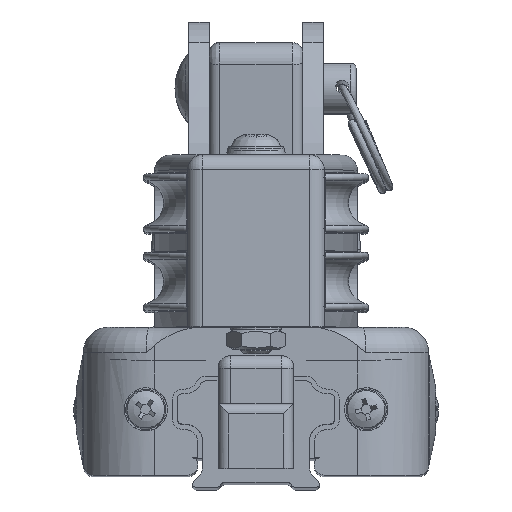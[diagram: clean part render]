
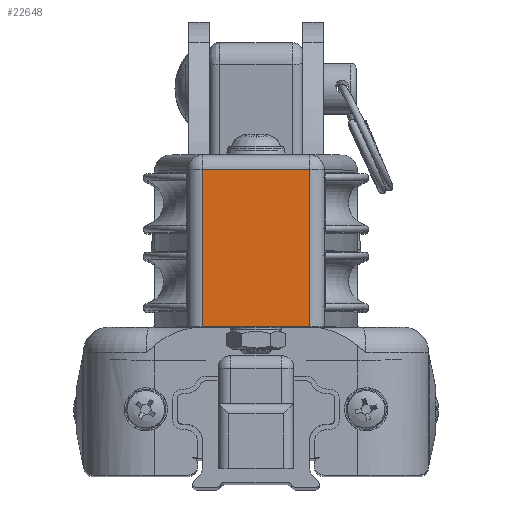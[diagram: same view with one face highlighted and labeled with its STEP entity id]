
A CAD part, top view. The second image highlights one B-rep face of the part: STEP entity #22648.
In plain terms, the highlighted planar face has unit normal (0, 0, 1).
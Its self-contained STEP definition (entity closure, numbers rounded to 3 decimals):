
#819=PLANE('',#24747);
#1842=LINE('',#35908,#3256);
#2471=LINE('',#44028,#3885);
#2472=LINE('',#44032,#3886);
#2473=LINE('',#44033,#3887);
#3256=VECTOR('',#26911,10.);
#3885=VECTOR('',#29712,10.);
#3886=VECTOR('',#29719,10.);
#3887=VECTOR('',#29720,10.);
#5060=FACE_OUTER_BOUND('',#6373,.T.);
#6373=EDGE_LOOP('',(#18178,#18179,#18180,#18181));
#9514=VERTEX_POINT('',#35905);
#9515=VERTEX_POINT('',#35907);
#10572=VERTEX_POINT('',#44026);
#10573=VERTEX_POINT('',#44027);
#11914=EDGE_CURVE('',#9514,#9515,#1842,.T.);
#13476=EDGE_CURVE('',#10572,#10573,#2471,.T.);
#13479=EDGE_CURVE('',#10573,#9515,#2472,.T.);
#13480=EDGE_CURVE('',#10572,#9514,#2473,.T.);
#18178=ORIENTED_EDGE('',*,*,#13479,.T.);
#18179=ORIENTED_EDGE('',*,*,#11914,.F.);
#18180=ORIENTED_EDGE('',*,*,#13480,.F.);
#18181=ORIENTED_EDGE('',*,*,#13476,.T.);
#22648=ADVANCED_FACE('',(#5060),#819,.T.);
#24747=AXIS2_PLACEMENT_3D('',#44031,#29717,#29718);
#26911=DIRECTION('',(0.,-1.,0.));
#29712=DIRECTION('',(0.,-1.,0.));
#29717=DIRECTION('center_axis',(0.,0.,
1.));
#29718=DIRECTION('ref_axis',(0.,1.,0.));
#29719=DIRECTION('',(1.,0.,0.));
#29720=DIRECTION('',(1.,0.,0.));
#35905=CARTESIAN_POINT('',(10.6,62.7,133.));
#35907=CARTESIAN_POINT('',(10.6,31.7,133.));
#35908=CARTESIAN_POINT('',(10.6,32.7,133.));
#44026=CARTESIAN_POINT('',(-10.6,62.7,133.));
#44027=CARTESIAN_POINT('',(-10.6,31.7,133.));
#44028=CARTESIAN_POINT('',(-10.6,32.7,133.));
#44031=CARTESIAN_POINT('Origin',(0.,32.7,
133.));
#44032=CARTESIAN_POINT('',(5.3,31.7,133.));
#44033=CARTESIAN_POINT('',(0.,62.7,133.));
